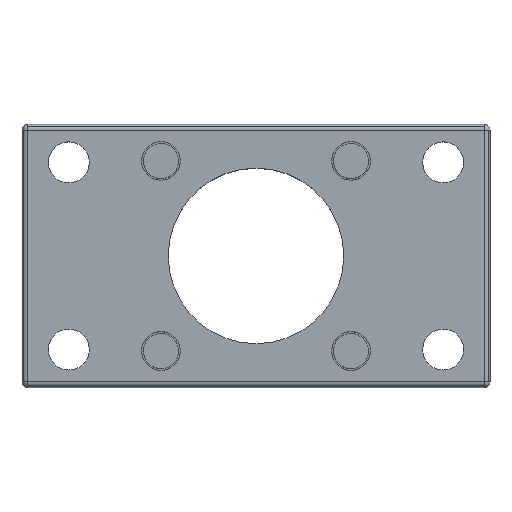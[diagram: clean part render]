
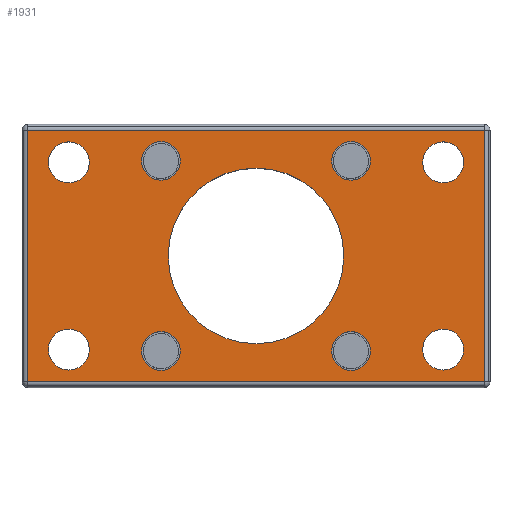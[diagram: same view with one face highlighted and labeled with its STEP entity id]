
A CAD part, top view. The second image highlights one B-rep face of the part: STEP entity #1931.
In plain terms, the highlighted planar face has unit normal (0, 0, 1).
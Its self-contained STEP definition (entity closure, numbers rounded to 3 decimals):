
#141=CARTESIAN_POINT('',(0.,10.,4.0));
#142=VERTEX_POINT('',#141);
#151=CARTESIAN_POINT('',(-30.,10.,4.0));
#152=VERTEX_POINT('',#151);
#153=CARTESIAN_POINT('',(-15.,10.,4.0));
#154=DIRECTION('',(0.0,0.0,-1.0));
#155=DIRECTION('',(1.0,0.0,0.0));
#156=AXIS2_PLACEMENT_3D('',#153,#154,#155);
#157=CIRCLE('',#156,15.0);
#158=EDGE_CURVE('',#152,#142,#157,.T.);
#183=CARTESIAN_POINT('',(20.5,26.,4.0));
#184=VERTEX_POINT('',#183);
#193=CARTESIAN_POINT('',(13.5,26.,4.0));
#194=VERTEX_POINT('',#193);
#195=CARTESIAN_POINT('',(17.0,26.,4.0));
#196=DIRECTION('',(0.0,0.0,-1.0));
#197=DIRECTION('',(1.0,0.0,0.0));
#198=AXIS2_PLACEMENT_3D('',#195,#196,#197);
#199=CIRCLE('',#198,3.5);
#200=EDGE_CURVE('',#194,#184,#199,.T.);
#225=CARTESIAN_POINT('',(-43.5,-6.,4.0));
#226=VERTEX_POINT('',#225);
#235=CARTESIAN_POINT('',(-50.5,-6.,4.0));
#236=VERTEX_POINT('',#235);
#237=CARTESIAN_POINT('',(-47.,-6.,4.0));
#238=DIRECTION('',(0.0,0.0,-1.0));
#239=DIRECTION('',(1.0,0.0,0.0));
#240=AXIS2_PLACEMENT_3D('',#237,#238,#239);
#241=CIRCLE('',#240,3.5);
#242=EDGE_CURVE('',#236,#226,#241,.T.);
#267=CARTESIAN_POINT('',(-43.5,26.,4.0));
#268=VERTEX_POINT('',#267);
#277=CARTESIAN_POINT('',(-50.5,26.,4.0));
#278=VERTEX_POINT('',#277);
#279=CARTESIAN_POINT('',(-47.0,26.,4.0));
#280=DIRECTION('',(0.0,0.0,-1.0));
#281=DIRECTION('',(1.0,0.0,0.0));
#282=AXIS2_PLACEMENT_3D('',#279,#280,#281);
#283=CIRCLE('',#282,3.5);
#284=EDGE_CURVE('',#278,#268,#283,.T.);
#309=CARTESIAN_POINT('',(20.5,-6.,4.0));
#310=VERTEX_POINT('',#309);
#319=CARTESIAN_POINT('',(13.5,-6.,4.0));
#320=VERTEX_POINT('',#319);
#321=CARTESIAN_POINT('',(17.0,-6.,4.0));
#322=DIRECTION('',(0.0,0.0,-1.0));
#323=DIRECTION('',(1.0,0.0,0.0));
#324=AXIS2_PLACEMENT_3D('',#321,#322,#323);
#325=CIRCLE('',#324,3.5);
#326=EDGE_CURVE('',#320,#310,#325,.T.);
#537=CARTESIAN_POINT('',(-27.95,-6.25,4.0));
#538=VERTEX_POINT('',#537);
#547=CARTESIAN_POINT('',(-34.55,-6.25,4.0));
#548=VERTEX_POINT('',#547);
#549=CARTESIAN_POINT('',(-31.25,-6.25,4.0));
#550=DIRECTION('',(0.0,0.0,-1.0));
#551=DIRECTION('',(1.0,0.0,0.0));
#552=AXIS2_PLACEMENT_3D('',#549,#550,#551);
#553=CIRCLE('',#552,3.3);
#554=EDGE_CURVE('',#548,#538,#553,.T.);
#579=CARTESIAN_POINT('',(4.55,26.25,4.0));
#580=VERTEX_POINT('',#579);
#589=CARTESIAN_POINT('',(-2.05,26.25,4.0));
#590=VERTEX_POINT('',#589);
#591=CARTESIAN_POINT('',(1.25,26.25,4.0));
#592=DIRECTION('',(0.0,0.0,-1.0));
#593=DIRECTION('',(1.0,0.0,0.0));
#594=AXIS2_PLACEMENT_3D('',#591,#592,#593);
#595=CIRCLE('',#594,3.3);
#596=EDGE_CURVE('',#590,#580,#595,.T.);
#621=CARTESIAN_POINT('',(-27.95,26.25,4.0));
#622=VERTEX_POINT('',#621);
#631=CARTESIAN_POINT('',(-34.55,26.25,4.0));
#632=VERTEX_POINT('',#631);
#633=CARTESIAN_POINT('',(-31.25,26.25,4.0));
#634=DIRECTION('',(0.0,0.0,-1.0));
#635=DIRECTION('',(1.0,0.0,0.0));
#636=AXIS2_PLACEMENT_3D('',#633,#634,#635);
#637=CIRCLE('',#636,3.3);
#638=EDGE_CURVE('',#632,#622,#637,.T.);
#663=CARTESIAN_POINT('',(4.55,-6.25,4.0));
#664=VERTEX_POINT('',#663);
#673=CARTESIAN_POINT('',(-2.05,-6.25,4.0));
#674=VERTEX_POINT('',#673);
#675=CARTESIAN_POINT('',(1.25,-6.25,4.0));
#676=DIRECTION('',(0.0,0.0,-1.0));
#677=DIRECTION('',(1.0,0.0,0.0));
#678=AXIS2_PLACEMENT_3D('',#675,#676,#677);
#679=CIRCLE('',#678,3.3);
#680=EDGE_CURVE('',#674,#664,#679,.T.);
#757=CARTESIAN_POINT('',(24.,-11.5,4.0));
#758=VERTEX_POINT('',#757);
#766=CARTESIAN_POINT('',(-54.0,-11.5,4.0));
#767=VERTEX_POINT('',#766);
#768=CARTESIAN_POINT('',(24.,-11.5,4.0));
#769=DIRECTION('',(-1.0,0.0,0.0));
#770=VECTOR('',#769,78.0);
#771=LINE('',#768,#770);
#772=EDGE_CURVE('',#758,#767,#771,.T.);
#806=CARTESIAN_POINT('',(-54.0,31.5,4.0));
#807=VERTEX_POINT('',#806);
#808=CARTESIAN_POINT('',(-54.0,-11.5,4.0));
#809=DIRECTION('',(0.0,1.0,0.0));
#810=VECTOR('',#809,43.);
#811=LINE('',#808,#810);
#812=EDGE_CURVE('',#767,#807,#811,.T.);
#1021=CARTESIAN_POINT('',(24.0,31.5,4.0));
#1022=VERTEX_POINT('',#1021);
#1030=CARTESIAN_POINT('',(24.0,31.5,4.0));
#1031=DIRECTION('',(0.0,-1.0,0.0));
#1032=VECTOR('',#1031,43.);
#1033=LINE('',#1030,#1032);
#1034=EDGE_CURVE('',#1022,#758,#1033,.T.);
#1068=CARTESIAN_POINT('',(-54.0,31.5,4.0));
#1069=DIRECTION('',(1.0,0.0,0.0));
#1070=VECTOR('',#1069,78.0);
#1071=LINE('',#1068,#1070);
#1072=EDGE_CURVE('',#807,#1022,#1071,.T.);
#1830=CARTESIAN_POINT('',(-15.,10.,4.0));
#1831=DIRECTION('',(0.0,0.0,1.0));
#1832=DIRECTION('',(1.0,0.0,0.0));
#1833=AXIS2_PLACEMENT_3D('',#1830,#1831,#1832);
#1834=PLANE('',#1833);
#1835=ORIENTED_EDGE('',*,*,#1072,.F.);
#1836=ORIENTED_EDGE('',*,*,#812,.F.);
#1837=ORIENTED_EDGE('',*,*,#772,.F.);
#1838=ORIENTED_EDGE('',*,*,#1034,.F.);
#1839=EDGE_LOOP('',(#1835,#1836,#1837,#1838));
#1840=FACE_OUTER_BOUND('',#1839,.T.);
#1841=ORIENTED_EDGE('',*,*,#158,.T.);
#1842=CARTESIAN_POINT('',(-15.,10.,4.0));
#1843=DIRECTION('',(0.0,0.0,-1.0));
#1844=DIRECTION('',(1.0,0.0,0.0));
#1845=AXIS2_PLACEMENT_3D('',#1842,#1843,#1844);
#1846=CIRCLE('',#1845,15.0);
#1847=EDGE_CURVE('',#142,#152,#1846,.T.);
#1848=ORIENTED_EDGE('',*,*,#1847,.T.);
#1849=EDGE_LOOP('',(#1841,#1848));
#1850=FACE_BOUND('',#1849,.T.);
#1851=ORIENTED_EDGE('',*,*,#200,.T.);
#1852=CARTESIAN_POINT('',(17.0,26.,4.0));
#1853=DIRECTION('',(0.0,0.0,-1.0));
#1854=DIRECTION('',(1.0,0.0,0.0));
#1855=AXIS2_PLACEMENT_3D('',#1852,#1853,#1854);
#1856=CIRCLE('',#1855,3.5);
#1857=EDGE_CURVE('',#184,#194,#1856,.T.);
#1858=ORIENTED_EDGE('',*,*,#1857,.T.);
#1859=EDGE_LOOP('',(#1851,#1858));
#1860=FACE_BOUND('',#1859,.T.);
#1861=ORIENTED_EDGE('',*,*,#242,.T.);
#1862=CARTESIAN_POINT('',(-47.,-6.,4.0));
#1863=DIRECTION('',(0.0,0.0,-1.0));
#1864=DIRECTION('',(1.0,0.0,0.0));
#1865=AXIS2_PLACEMENT_3D('',#1862,#1863,#1864);
#1866=CIRCLE('',#1865,3.5);
#1867=EDGE_CURVE('',#226,#236,#1866,.T.);
#1868=ORIENTED_EDGE('',*,*,#1867,.T.);
#1869=EDGE_LOOP('',(#1861,#1868));
#1870=FACE_BOUND('',#1869,.T.);
#1871=ORIENTED_EDGE('',*,*,#284,.T.);
#1872=CARTESIAN_POINT('',(-47.0,26.,4.0));
#1873=DIRECTION('',(0.0,0.0,-1.0));
#1874=DIRECTION('',(1.0,0.0,0.0));
#1875=AXIS2_PLACEMENT_3D('',#1872,#1873,#1874);
#1876=CIRCLE('',#1875,3.5);
#1877=EDGE_CURVE('',#268,#278,#1876,.T.);
#1878=ORIENTED_EDGE('',*,*,#1877,.T.);
#1879=EDGE_LOOP('',(#1871,#1878));
#1880=FACE_BOUND('',#1879,.T.);
#1881=ORIENTED_EDGE('',*,*,#326,.T.);
#1882=CARTESIAN_POINT('',(17.0,-6.,4.0));
#1883=DIRECTION('',(0.0,0.0,-1.0));
#1884=DIRECTION('',(1.0,0.0,0.0));
#1885=AXIS2_PLACEMENT_3D('',#1882,#1883,#1884);
#1886=CIRCLE('',#1885,3.5);
#1887=EDGE_CURVE('',#310,#320,#1886,.T.);
#1888=ORIENTED_EDGE('',*,*,#1887,.T.);
#1889=EDGE_LOOP('',(#1881,#1888));
#1890=FACE_BOUND('',#1889,.T.);
#1891=ORIENTED_EDGE('',*,*,#554,.T.);
#1892=CARTESIAN_POINT('',(-31.25,-6.25,4.0));
#1893=DIRECTION('',(0.0,0.0,-1.0));
#1894=DIRECTION('',(1.0,0.0,0.0));
#1895=AXIS2_PLACEMENT_3D('',#1892,#1893,#1894);
#1896=CIRCLE('',#1895,3.3);
#1897=EDGE_CURVE('',#538,#548,#1896,.T.);
#1898=ORIENTED_EDGE('',*,*,#1897,.T.);
#1899=EDGE_LOOP('',(#1891,#1898));
#1900=FACE_BOUND('',#1899,.T.);
#1901=ORIENTED_EDGE('',*,*,#596,.T.);
#1902=CARTESIAN_POINT('',(1.25,26.25,4.0));
#1903=DIRECTION('',(0.0,0.0,-1.0));
#1904=DIRECTION('',(1.0,0.0,0.0));
#1905=AXIS2_PLACEMENT_3D('',#1902,#1903,#1904);
#1906=CIRCLE('',#1905,3.3);
#1907=EDGE_CURVE('',#580,#590,#1906,.T.);
#1908=ORIENTED_EDGE('',*,*,#1907,.T.);
#1909=EDGE_LOOP('',(#1901,#1908));
#1910=FACE_BOUND('',#1909,.T.);
#1911=ORIENTED_EDGE('',*,*,#638,.T.);
#1912=CARTESIAN_POINT('',(-31.25,26.25,4.0));
#1913=DIRECTION('',(0.0,0.0,-1.0));
#1914=DIRECTION('',(1.0,0.0,0.0));
#1915=AXIS2_PLACEMENT_3D('',#1912,#1913,#1914);
#1916=CIRCLE('',#1915,3.3);
#1917=EDGE_CURVE('',#622,#632,#1916,.T.);
#1918=ORIENTED_EDGE('',*,*,#1917,.T.);
#1919=EDGE_LOOP('',(#1911,#1918));
#1920=FACE_BOUND('',#1919,.T.);
#1921=ORIENTED_EDGE('',*,*,#680,.T.);
#1922=CARTESIAN_POINT('',(1.25,-6.25,4.0));
#1923=DIRECTION('',(0.0,0.0,-1.0));
#1924=DIRECTION('',(1.0,0.0,0.0));
#1925=AXIS2_PLACEMENT_3D('',#1922,#1923,#1924);
#1926=CIRCLE('',#1925,3.3);
#1927=EDGE_CURVE('',#664,#674,#1926,.T.);
#1928=ORIENTED_EDGE('',*,*,#1927,.T.);
#1929=EDGE_LOOP('',(#1921,#1928));
#1930=FACE_BOUND('',#1929,.T.);
#1931=ADVANCED_FACE('',(#1840,#1850,#1860,#1870,#1880,#1890,#1900,#1910,#1920,#1930),#1834,.T.);
